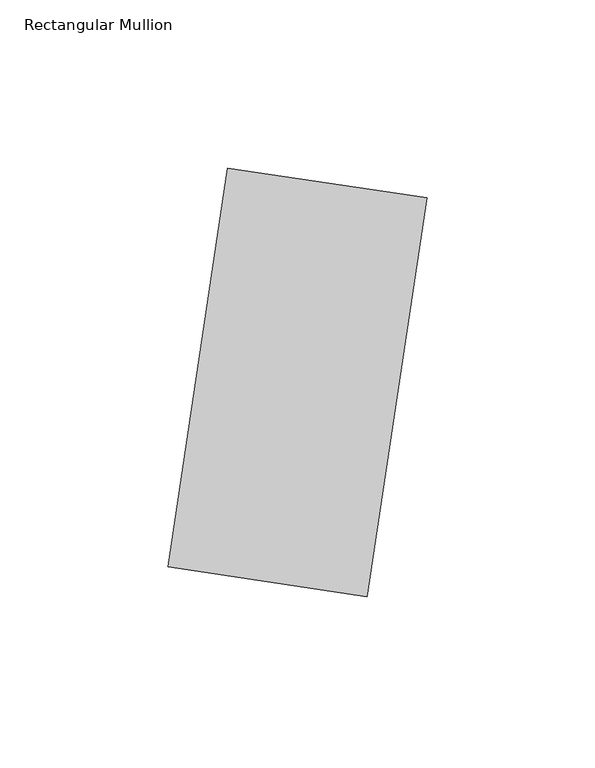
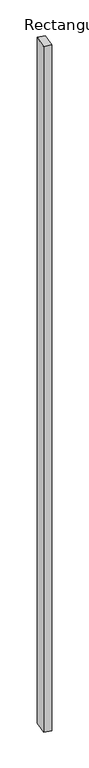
"""IFC4 building model written with IfcOpenShell, lengths in millimetres: member geometry, Rectangular Mullion : TERÇA 6x12 cm."""

from ifc_helpers import new_model, si_unit, frame, origin, place, context, project, spatial, polyline, outline, extrude, source, transform, mapped, element, save


def rectangular_mullion_a335f213(model_context):
    return source(origin(), model_context, "Body", "SweptSolid", [
        extrude(outline(polyline([(-29.6680906, 4.4502136), (-11.8672362, 123.1225759), (47.4689449, 114.2221488), (29.6680906, -4.4502136), (-29.6680906, 4.4502136)])), frame((0.0, 0.0, -5720.3319094), z_axis=(0.0, 0.0, 1.0), x_axis=(1.0, 0.0, 0.0)), (0.0, 0.0, 1.0), 5720.3319094),
    ])


if __name__ == "__main__":
    model = new_model("IFC4")
    model_context = context("Model", 3, world=origin())
    ifc_project = project(units=[si_unit("LENGTHUNIT", "METRE", prefix="MILLI")], contexts=[model_context])
    site = spatial("IfcSite", under=ifc_project)
    building = spatial("IfcBuilding", under=site)
    placement = place(None, origin())
    rectangular_mullion_shape = rectangular_mullion_a335f213(model_context)
    element("IfcMember", 1, ObjectType="Rectangular Mullion : TERÇA 6x12 cm", at=placement, inside=building, context=model_context, shape_type="MappedRepresentation", body=[
        mapped(rectangular_mullion_shape, transform((0.0, 0.0, 0.0), x_axis=(1.0, 0.0, 0.0), y_axis=(0.0, 1.0, 0.0), z_axis=(0.0, 0.0, 1.0))),
    ])
    save(model, "model.ifc")
